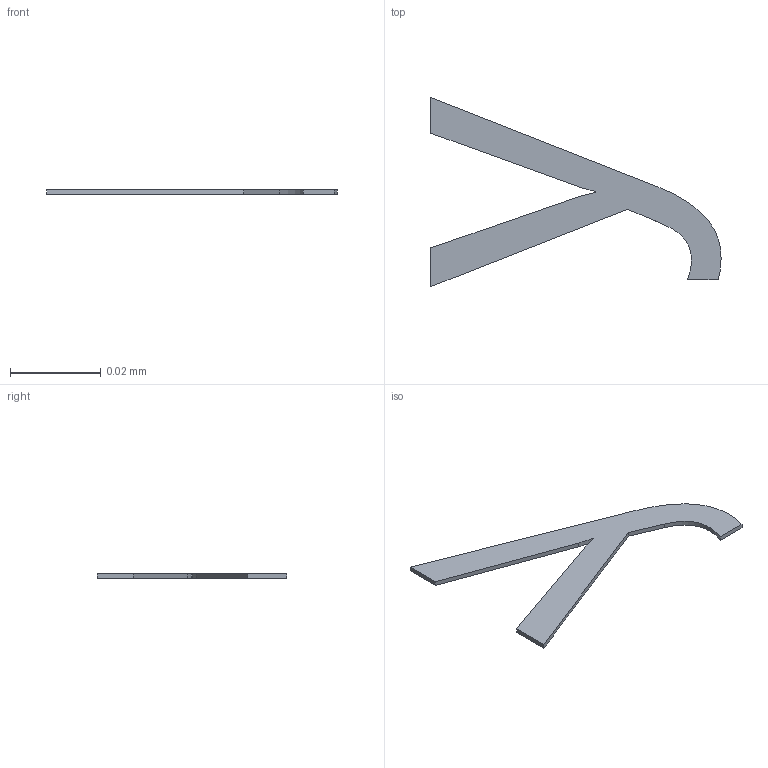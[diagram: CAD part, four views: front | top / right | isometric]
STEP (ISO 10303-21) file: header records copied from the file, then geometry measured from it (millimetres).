
FILE_DESCRIPTION(/* description */ ('STEP AP242 Edition 2','CAx-IF Rec.Pracs.---Representation and Presentation of Product Manufacturing Information (PMI)---4.0---2014-10-13','CAx-IF Rec.Pracs.---3D Tessellated Geometry---0.4---2014-09-14','2;1','CAx-IF Rec.Pracs.---User Defined Attributes---1.5---2016-08-15'),/* implementation_level */ '2;1');
FILE_NAME(/* name */ 'Assembly 1 - SOT-23-3_L2.9-W1.3-P0.95-LS2.4-BR~SOT-23-3P_L2.9-W1.3-H1.0-LS2.4-P0.95~nxQB (15)',/* time_stamp */ '2026-04-02T09:55:23Z',/* author */ (''),/* organization */ (''),/* preprocessor_version */ 'ST-DEVELOPER v20',/* originating_system */ 'ONSHAPE BY PTC INC, 1.212',/* authorisation */ ' ');
FILE_SCHEMA (('AP242_MANAGED_MODEL_BASED_3D_ENGINEERING_MIM_LF { 1 0 10303 442 3 1 4 }'));
Length unit declared in the file: metre
Products named in the file (1): SOT-23-3_L2.9-W1.3-P0.95-LS2.4-BR~SOT-23-3P_L2.9-W1.3-H1.0-LS2.4-P0.9
5~nxQB
Bounding box: 0.06 x 0.04 x 0 mm (x, y, z)
Volume: 0 mm3; surface area: 0 mm2
Topology: 1 solids, 1 shells, 17 faces, 45 edges, 30 vertices
Faces by surface type: plane 12, bspline 5
Entity records: 691 total; most frequent: CARTESIAN_POINT 140, ORIENTED_EDGE 90, DIRECTION 73, EDGE_CURVE 45, LINE 35, VECTOR 35, VERTEX_POINT 30, AXIS2_PLACEMENT_3D 19
